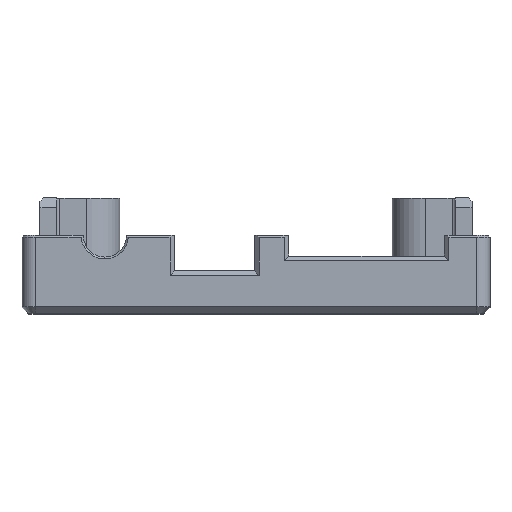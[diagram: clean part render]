
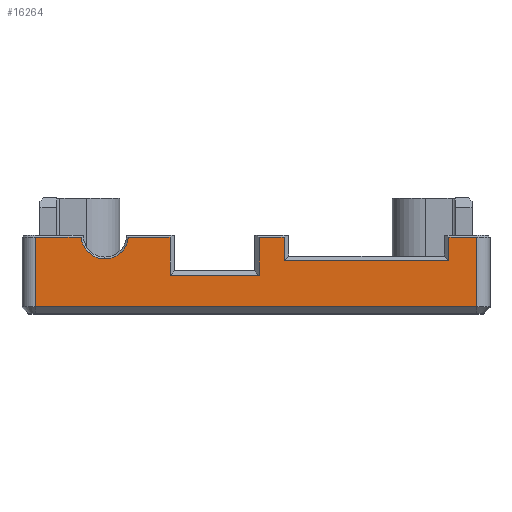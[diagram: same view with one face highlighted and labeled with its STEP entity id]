
A CAD part, top view. The second image highlights one B-rep face of the part: STEP entity #16264.
In plain terms, the highlighted planar face has unit normal (0, 0, 1).
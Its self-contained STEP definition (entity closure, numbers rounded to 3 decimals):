
#74 = VERTEX_POINT ( 'NONE', #25012 ) ;
#311 = CARTESIAN_POINT ( 'NONE',  ( 9.755, 11.7, 2.7 ) ) ;
#384 = VECTOR ( 'NONE', #35698, 1000. ) ;
#787 = DIRECTION ( 'NONE',  ( 0., 1., 0. ) ) ;
#805 = PLANE ( 'NONE',  #31941 ) ;
#2203 = ORIENTED_EDGE ( 'NONE', *, *, #18219, .F. ) ;
#2853 = CARTESIAN_POINT ( 'NONE',  ( 0., 7.9, 2.7 ) ) ;
#3500 = LINE ( 'NONE', #14466, #28803 ) ;
#3794 = DIRECTION ( 'NONE',  ( -1., 0., 0. ) ) ;
#4254 = VERTEX_POINT ( 'NONE', #25320 ) ;
#4346 = CARTESIAN_POINT ( 'NONE',  ( 19.565, 11.4, 2.7 ) ) ;
#4435 = DIRECTION ( 'NONE',  ( -1., 0., 0. ) ) ;
#4829 = VERTEX_POINT ( 'NONE', #27517 ) ;
#5232 = VERTEX_POINT ( 'NONE', #17791 ) ;
#5750 = CARTESIAN_POINT ( 'NONE',  ( 32.265, 11.4, 2.7 ) ) ;
#5921 = DIRECTION ( 'NONE',  ( 0., -1., 0. ) ) ;
#5943 = ORIENTED_EDGE ( 'NONE', *, *, #13063, .T. ) ;
#6320 = DIRECTION ( 'NONE',  ( -1., 0., 0. ) ) ;
#6983 = EDGE_CURVE ( 'NONE', #30717, #4254, #17751, .T. ) ;
#7184 = CARTESIAN_POINT ( 'NONE',  ( 19.565, 5.7, 2.7 ) ) ;
#8496 = LINE ( 'NONE', #2853, #25731 ) ;
#8593 = EDGE_CURVE ( 'NONE', #11887, #24430, #9568, .T. ) ;
#9282 = CARTESIAN_POINT ( 'NONE',  ( -0.7, 11.4, 2.7 ) ) ;
#9375 = LINE ( 'NONE', #37061, #16367 ) ;
#9568 = LINE ( 'NONE', #32239, #384 ) ;
#10231 = ORIENTED_EDGE ( 'NONE', *, *, #20030, .T. ) ;
#11013 = CARTESIAN_POINT ( 'NONE',  ( 32.965, 11.7, 2.7 ) ) ;
#11722 = CARTESIAN_POINT ( 'NONE',  ( 65.7, 1., 2.7 ) ) ;
#11887 = VERTEX_POINT ( 'NONE', #15134 ) ;
#12121 = EDGE_CURVE ( 'NONE', #4829, #44193, #9375, .T. ) ;
#12139 = VERTEX_POINT ( 'NONE', #44130 ) ;
#13018 = DIRECTION ( 'NONE',  ( 1., 0., 0. ) ) ;
#13063 = EDGE_CURVE ( 'NONE', #13260, #21377, #25456, .T. ) ;
#13260 = VERTEX_POINT ( 'NONE', #4346 ) ;
#14060 = LINE ( 'NONE', #27837, #32392 ) ;
#14098 = CARTESIAN_POINT ( 'NONE',  ( -0.7, 11.4, 2.7 ) ) ;
#14466 = CARTESIAN_POINT ( 'NONE',  ( 65.7, 11.7, 2.7 ) ) ;
#14828 = LINE ( 'NONE', #14098, #41193 ) ;
#14995 = ORIENTED_EDGE ( 'NONE', *, *, #36323, .T. ) ;
#15134 = CARTESIAN_POINT ( 'NONE',  ( 32.965, 5.7, 2.7 ) ) ;
#16264 = ADVANCED_FACE ( 'NONE', ( #33807 ), #805, .F. ) ;
#16277 = EDGE_LOOP ( 'NONE', ( #31299, #23368, #40050, #14995, #44653, #10231, #43315, #18153, #5943, #44003, #42853, #34830, #37244, #2203 ) ) ;
#16367 = VECTOR ( 'NONE', #13018, 1000. ) ;
#16960 = LINE ( 'NONE', #17944, #34184 ) ;
#17751 = LINE ( 'NONE', #5750, #25885 ) ;
#17791 = CARTESIAN_POINT ( 'NONE',  ( 61.525, 7.9, 2.7 ) ) ;
#17868 = CARTESIAN_POINT ( 'NONE',  ( 36.725, 11.4, 2.7 ) ) ;
#17944 = CARTESIAN_POINT ( 'NONE',  ( 36.725, 11.4, 2.7 ) ) ;
#18120 = EDGE_CURVE ( 'NONE', #21377, #21356, #42230, .T. ) ;
#18153 = ORIENTED_EDGE ( 'NONE', *, *, #30851, .T. ) ;
#18219 = EDGE_CURVE ( 'NONE', #74, #44193, #3500, .T. ) ;
#18434 = AXIS2_PLACEMENT_3D ( 'NONE', #311, #24402, #3794 ) ;
#18760 = DIRECTION ( 'NONE',  ( 0., 1., 0. ) ) ;
#19276 = EDGE_CURVE ( 'NONE', #23239, #4829, #21692, .T. ) ;
#19828 = CARTESIAN_POINT ( 'NONE',  ( 61.525, 11.4, 2.7 ) ) ;
#20030 = EDGE_CURVE ( 'NONE', #4254, #11887, #38964, .T. ) ;
#20450 = DIRECTION ( 'NONE',  ( -1., 0., 0. ) ) ;
#20624 = VECTOR ( 'NONE', #43587, 1000. ) ;
#21356 = VERTEX_POINT ( 'NONE', #35771 ) ;
#21377 = VERTEX_POINT ( 'NONE', #42826 ) ;
#21500 = DIRECTION ( 'NONE',  ( 0., -1., 0. ) ) ;
#21692 = LINE ( 'NONE', #30054, #20624 ) ;
#23239 = VERTEX_POINT ( 'NONE', #9282 ) ;
#23368 = ORIENTED_EDGE ( 'NONE', *, *, #40252, .T. ) ;
#24402 = DIRECTION ( 'NONE',  ( 0., 0., -1. ) ) ;
#24430 = VERTEX_POINT ( 'NONE', #7184 ) ;
#24785 = VECTOR ( 'NONE', #5921, 1000. ) ;
#25012 = CARTESIAN_POINT ( 'NONE',  ( 65.7, 11.4, 2.7 ) ) ;
#25052 = DIRECTION ( 'NONE',  ( 0., 0., -1. ) ) ;
#25320 = CARTESIAN_POINT ( 'NONE',  ( 32.965, 11.4, 2.7 ) ) ;
#25456 = LINE ( 'NONE', #37601, #42636 ) ;
#25566 = CARTESIAN_POINT ( 'NONE',  ( 19.565, 11.4, 2.7 ) ) ;
#25731 = VECTOR ( 'NONE', #6320, 1000. ) ;
#25885 = VECTOR ( 'NONE', #43504, 1000. ) ;
#26574 = CARTESIAN_POINT ( 'NONE',  ( 61.525, 11.7, 2.7 ) ) ;
#27517 = CARTESIAN_POINT ( 'NONE',  ( -0.7, 1., 2.7 ) ) ;
#27837 = CARTESIAN_POINT ( 'NONE',  ( 60.825, 11.4, 2.7 ) ) ;
#28746 = VECTOR ( 'NONE', #21500, 1000. ) ;
#28803 = VECTOR ( 'NONE', #31925, 1000. ) ;
#30054 = CARTESIAN_POINT ( 'NONE',  ( -0.7, 11.7, 2.7 ) ) ;
#30711 = VECTOR ( 'NONE', #18760, 1000. ) ;
#30717 = VERTEX_POINT ( 'NONE', #17868 ) ;
#30851 = EDGE_CURVE ( 'NONE', #24430, #13260, #31788, .T. ) ;
#31279 = DIRECTION ( 'NONE',  ( -1., 0., 0. ) ) ;
#31299 = ORIENTED_EDGE ( 'NONE', *, *, #38741, .T. ) ;
#31788 = LINE ( 'NONE', #25566, #30711 ) ;
#31925 = DIRECTION ( 'NONE',  ( 0., -1., 0. ) ) ;
#31941 = AXIS2_PLACEMENT_3D ( 'NONE', #42165, #25052, #4435 ) ;
#32239 = CARTESIAN_POINT ( 'NONE',  ( 0., 5.7, 2.7 ) ) ;
#32392 = VECTOR ( 'NONE', #31279, 1000. ) ;
#33807 = FACE_OUTER_BOUND ( 'NONE', #16277, .T. ) ;
#34184 = VECTOR ( 'NONE', #787, 1000. ) ;
#34702 = DIRECTION ( 'NONE',  ( -1., 0., 0. ) ) ;
#34830 = ORIENTED_EDGE ( 'NONE', *, *, #19276, .T. ) ;
#35698 = DIRECTION ( 'NONE',  ( -1., 0., 0. ) ) ;
#35771 = CARTESIAN_POINT ( 'NONE',  ( 6.218, 11.4, 2.7 ) ) ;
#35795 = EDGE_CURVE ( 'NONE', #21356, #23239, #14828, .T. ) ;
#36323 = EDGE_CURVE ( 'NONE', #12139, #30717, #16960, .T. ) ;
#37061 = CARTESIAN_POINT ( 'NONE',  ( 0., 1., 2.7 ) ) ;
#37244 = ORIENTED_EDGE ( 'NONE', *, *, #12121, .T. ) ;
#37601 = CARTESIAN_POINT ( 'NONE',  ( 13.005, 11.4, 2.7 ) ) ;
#38741 = EDGE_CURVE ( 'NONE', #74, #40783, #14060, .T. ) ;
#38964 = LINE ( 'NONE', #11013, #28746 ) ;
#40050 = ORIENTED_EDGE ( 'NONE', *, *, #42344, .T. ) ;
#40252 = EDGE_CURVE ( 'NONE', #40783, #5232, #43088, .T. ) ;
#40783 = VERTEX_POINT ( 'NONE', #19828 ) ;
#41193 = VECTOR ( 'NONE', #34702, 1000. ) ;
#42165 = CARTESIAN_POINT ( 'NONE',  ( 0., 11.7, 2.7 ) ) ;
#42230 = CIRCLE ( 'NONE', #18434, 3.55 ) ;
#42344 = EDGE_CURVE ( 'NONE', #5232, #12139, #8496, .T. ) ;
#42636 = VECTOR ( 'NONE', #20450, 1000. ) ;
#42826 = CARTESIAN_POINT ( 'NONE',  ( 13.292, 11.4, 2.7 ) ) ;
#42853 = ORIENTED_EDGE ( 'NONE', *, *, #35795, .T. ) ;
#43088 = LINE ( 'NONE', #26574, #24785 ) ;
#43315 = ORIENTED_EDGE ( 'NONE', *, *, #8593, .T. ) ;
#43504 = DIRECTION ( 'NONE',  ( -1., 0., 0. ) ) ;
#43587 = DIRECTION ( 'NONE',  ( 0., -1., 0. ) ) ;
#44003 = ORIENTED_EDGE ( 'NONE', *, *, #18120, .T. ) ;
#44130 = CARTESIAN_POINT ( 'NONE',  ( 36.725, 7.9, 2.7 ) ) ;
#44193 = VERTEX_POINT ( 'NONE', #11722 ) ;
#44653 = ORIENTED_EDGE ( 'NONE', *, *, #6983, .T. ) ;
